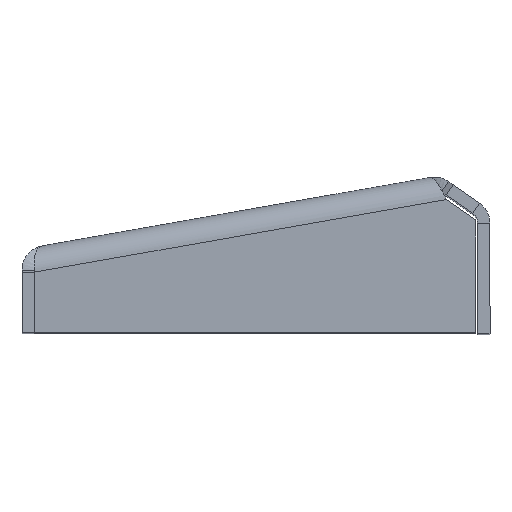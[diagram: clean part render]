
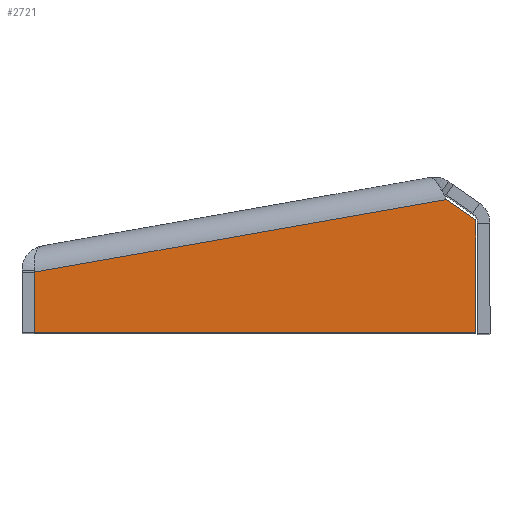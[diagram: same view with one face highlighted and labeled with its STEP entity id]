
A CAD part, top view. The second image highlights one B-rep face of the part: STEP entity #2721.
In plain terms, the highlighted planar face has unit normal (0, 0, 1).
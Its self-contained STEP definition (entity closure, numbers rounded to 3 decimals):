
#317 = EDGE_CURVE ( 'NONE', #6584, #3093, #3713, .T. ) ;
#374 = DIRECTION ( 'NONE',  ( 0.984, -0.179, 0. ) ) ;
#567 = CARTESIAN_POINT ( 'NONE',  ( 2., -33.959, 67. ) ) ;
#611 = CARTESIAN_POINT ( 'NONE',  ( 0., 0., 67. ) ) ;
#626 = CARTESIAN_POINT ( 'NONE',  ( 2., 0., 67. ) ) ;
#683 = DIRECTION ( 'NONE',  ( 0., 0., -1. ) ) ;
#1038 = LINE ( 'NONE', #6421, #1218 ) ;
#1065 = DIRECTION ( 'NONE',  ( 0.707, 0.707, 0. ) ) ;
#1186 = VERTEX_POINT ( 'NONE', #567 ) ;
#1218 = VECTOR ( 'NONE', #374, 1000. ) ;
#1527 = EDGE_CURVE ( 'NONE', #3093, #3785, #5144, .T. ) ;
#1742 = DIRECTION ( 'NONE',  ( -1., 0., 0. ) ) ;
#1917 = VECTOR ( 'NONE', #6233, 1000. ) ;
#1969 = CARTESIAN_POINT ( 'NONE',  ( 2., 34., 67. ) ) ;
#2251 = LINE ( 'NONE', #6132, #2340 ) ;
#2340 = VECTOR ( 'NONE', #5100, 1000. ) ;
#2721 = ADVANCED_FACE ( 'NONE', ( #3521 ), #6094, .F. ) ;
#2935 = EDGE_CURVE ( 'NONE', #3785, #6871, #2251, .T. ) ;
#3093 = VERTEX_POINT ( 'NONE', #5432 ) ;
#3521 = FACE_OUTER_BOUND ( 'NONE', #5447, .T. ) ;
#3713 = LINE ( 'NONE', #3780, #5324 ) ;
#3772 = DIRECTION ( 'NONE',  ( 0., 1., 0. ) ) ;
#3780 = CARTESIAN_POINT ( 'NONE',  ( 0., 32., 67. ) ) ;
#3785 = VERTEX_POINT ( 'NONE', #5707 ) ;
#4319 = ORIENTED_EDGE ( 'NONE', *, *, #1527, .F. ) ;
#5100 = DIRECTION ( 'NONE',  ( -0.174, -0.985, 0. ) ) ;
#5143 = CARTESIAN_POINT ( 'NONE',  ( 6.096, 38.096, 67. ) ) ;
#5144 = LINE ( 'NONE', #5143, #1917 ) ;
#5241 = ORIENTED_EDGE ( 'NONE', *, *, #6727, .T. ) ;
#5324 = VECTOR ( 'NONE', #1065, 1000. ) ;
#5339 = ORIENTED_EDGE ( 'NONE', *, *, #2935, .F. ) ;
#5432 = CARTESIAN_POINT ( 'NONE',  ( 6.096, 38.096, 67. ) ) ;
#5447 = EDGE_LOOP ( 'NONE', ( #6658, #5241, #5339, #4319, #6049 ) ) ;
#5469 = CARTESIAN_POINT ( 'NONE',  ( 11.644, -35.718, 67. ) ) ;
#5707 = CARTESIAN_POINT ( 'NONE',  ( 24.1, 34.921, 67. ) ) ;
#6049 = ORIENTED_EDGE ( 'NONE', *, *, #317, .F. ) ;
#6062 = VECTOR ( 'NONE', #3772, 1000. ) ;
#6094 = PLANE ( 'NONE',  #6128 ) ;
#6128 = AXIS2_PLACEMENT_3D ( 'NONE', #611, #683, #1742 ) ;
#6132 = CARTESIAN_POINT ( 'NONE',  ( 24.1, 34.921, 67. ) ) ;
#6233 = DIRECTION ( 'NONE',  ( 0.985, -0.174, 0. ) ) ;
#6372 = LINE ( 'NONE', #626, #6062 ) ;
#6421 = CARTESIAN_POINT ( 'NONE',  ( 2., -33.959, 67. ) ) ;
#6584 = VERTEX_POINT ( 'NONE', #1969 ) ;
#6658 = ORIENTED_EDGE ( 'NONE', *, *, #7012, .F. ) ;
#6727 = EDGE_CURVE ( 'NONE', #1186, #6871, #1038, .T. ) ;
#6871 = VERTEX_POINT ( 'NONE', #5469 ) ;
#7012 = EDGE_CURVE ( 'NONE', #1186, #6584, #6372, .T. ) ;
